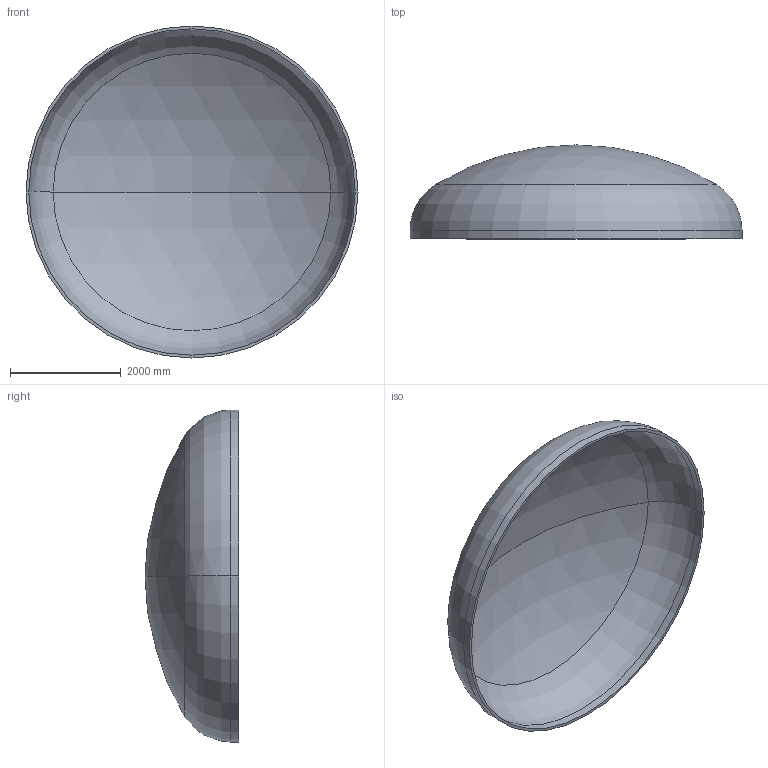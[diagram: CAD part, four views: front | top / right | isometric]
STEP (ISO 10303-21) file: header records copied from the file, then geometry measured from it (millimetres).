
FILE_DESCRIPTION (( 'STEP AP203' ), '1' );
FILE_NAME ('DIN 28013 Korbbogenform_-_Boden DIN 28013 - 6000 x 150 - I - s=50.step', '2016-07-04T10:37:24', ( '' ), ( '' ), 'SwSTEP 2.0', 'SolidWorks 2013', '' );
FILE_SCHEMA (( 'CONFIG_CONTROL_DESIGN' ));
Length unit declared in the file: millimetre
Products named in the file (1): DIN 28013 Korbbogenform_-_Boden DIN 28013 - 6000 x 150 - I - s=50
Bounding box: 6000 x 1696.21 x 6000 mm (x, y, z)
Volume: 2077131538 mm3; surface area: 84025089.9 mm2
Topology: 1 solids, 1 shells, 13 faces, 24 edges, 14 vertices
Faces by surface type: torus 4, cylinder 4, sphere 4, plane 1
Entity records: 407 total; most frequent: DIRECTION 72, CARTESIAN_POINT 52, ORIENTED_EDGE 48, AXIS2_PLACEMENT_3D 34, EDGE_CURVE 24, CIRCLE 20, VERTEX_POINT 14, EDGE_LOOP 14
